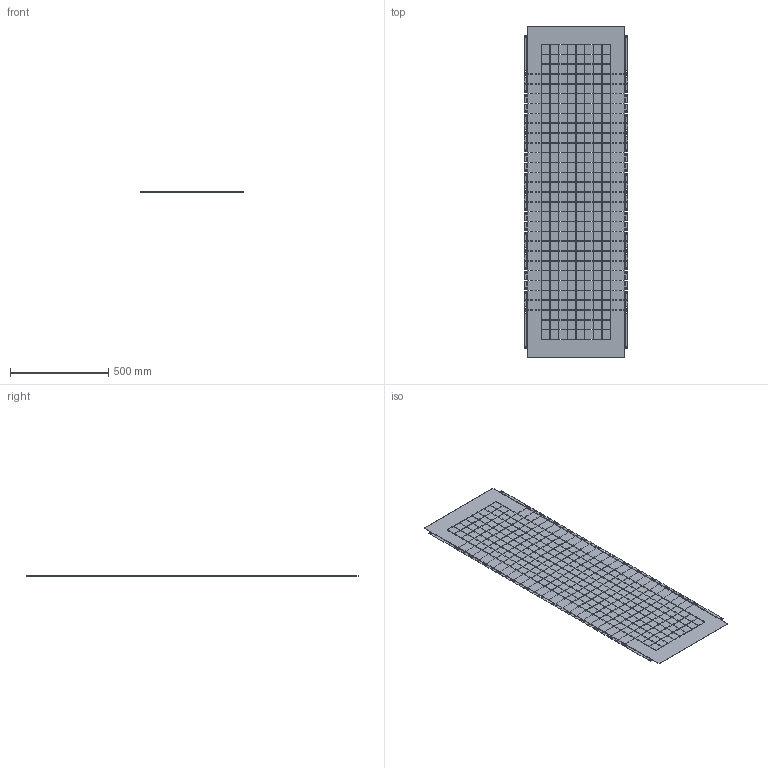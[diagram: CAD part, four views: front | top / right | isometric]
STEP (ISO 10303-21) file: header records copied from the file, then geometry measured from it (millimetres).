
FILE_DESCRIPTION (( 'STEP AP203' ), '1' );
FILE_NAME ('MA1.800.060618.03.01 Ïàíåëü âåðòèêàëüíàÿ äëÿ ñåêöèîíèðîâàíèÿ Ã600 Â1800 ìì EKF.STEP', '2024-12-02T14:02:30', ( '' ), ( '' ), 'SwSTEP 2.0', 'SolidWorks 2021', '' );
FILE_SCHEMA (( 'CONFIG_CONTROL_DESIGN' ));
Length unit declared in the file: millimetre
Products named in the file (1): MA1.800.060618.03.01 Ïàíåëü âåðòèêàëüíàÿ äëÿ ñåêöèîíèðîâàíèÿ Ã600 Â1800 ìì EKF
Bounding box: 526.6 x 1688 x 1 mm (x, y, z)
Volume: 825509.6 mm3; surface area: 1712686 mm2
Topology: 1 solids, 1 shells, 3182 faces, 9540 edges, 6360 vertices
Faces by surface type: plane 3070, cylinder 112
Entity records: 108233 total; most frequent: CARTESIAN_POINT 19083, ORIENTED_EDGE 19080, DIRECTION 16130, EDGE_CURVE 9540, VECTOR 9316, LINE 9316, VERTEX_POINT 6360, EDGE_LOOP 4666
